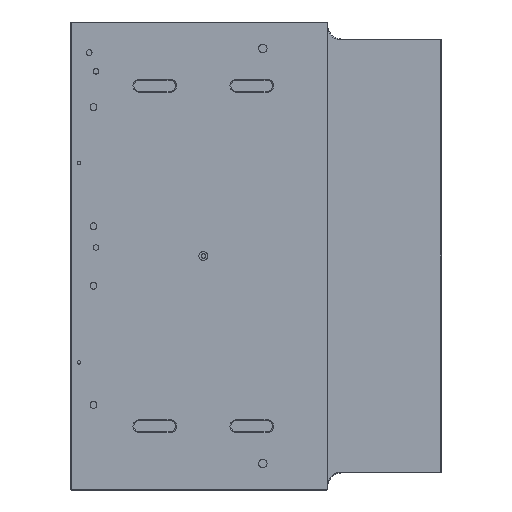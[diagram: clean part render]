
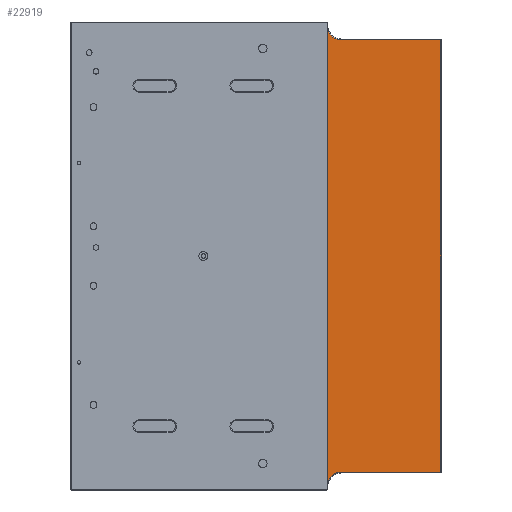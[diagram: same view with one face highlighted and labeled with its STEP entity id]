
A CAD part, front view. The second image highlights one B-rep face of the part: STEP entity #22919.
In plain terms, the highlighted planar face has unit normal (0, -1, 0).
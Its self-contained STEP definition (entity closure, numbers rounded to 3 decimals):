
#3095=CARTESIAN_POINT('',(81.3,0.5,
-127.));
#3096=CARTESIAN_POINT('',(81.172,0.5,
-127.));
#3097=CARTESIAN_POINT('',(80.916,0.5,
-127.006));
#3098=CARTESIAN_POINT('',(80.531,0.5,
-127.031));
#3099=CARTESIAN_POINT('',(80.147,0.5,
-127.073));
#3100=CARTESIAN_POINT('',(79.764,0.5,
-127.132));
#3101=CARTESIAN_POINT('',(79.384,0.5,
-127.208));
#3102=CARTESIAN_POINT('',(79.008,0.5,
-127.301));
#3103=CARTESIAN_POINT('',(78.636,0.5,
-127.41));
#3104=CARTESIAN_POINT('',(78.269,0.5,
-127.535));
#3105=CARTESIAN_POINT('',(77.908,0.5,
-127.677));
#3106=CARTESIAN_POINT('',(77.554,0.5,
-127.834));
#3107=CARTESIAN_POINT('',(77.207,0.5,
-128.007));
#3108=CARTESIAN_POINT('',(76.868,0.5,
-128.194));
#3109=CARTESIAN_POINT('',(76.538,0.5,
-128.397));
#3110=CARTESIAN_POINT('',(76.216,0.5,
-128.614));
#3111=CARTESIAN_POINT('',(75.905,0.5,
-128.844));
#3112=CARTESIAN_POINT('',(75.604,0.5,-129.088));
#3113=CARTESIAN_POINT('',(75.314,0.5,-129.346));
#3114=CARTESIAN_POINT('',(75.036,0.5,-129.616));
#3115=CARTESIAN_POINT('',(74.77,0.5,-129.897));
#3116=CARTESIAN_POINT('',(74.516,0.5,-130.19));
#3117=CARTESIAN_POINT('',(74.276,0.5,-130.494));
#3118=CARTESIAN_POINT('',(74.049,0.5,-130.808));
#3119=CARTESIAN_POINT('',(73.836,0.5,-131.132));
#3120=CARTESIAN_POINT('',(73.638,0.5,-131.466));
#3121=CARTESIAN_POINT('',(73.455,0.5,-131.807));
#3122=CARTESIAN_POINT('',(73.287,0.5,-132.156));
#3123=CARTESIAN_POINT('',(73.134,0.5,-132.513));
#3124=CARTESIAN_POINT('',(73.043,0.5,-132.754));
#3125=CARTESIAN_POINT('',(73.,0.5,-132.876));
#3130=DIRECTION('',(0.,0.,1.));
#3131=VECTOR('',#3130,265.752);
#3132=CARTESIAN_POINT('',(73.,0.5,-132.876));
#3133=LINE('1306',#3132,#3131);
#3137=CARTESIAN_POINT('',(81.3,0.5,135.8));
#3138=DIRECTION('',(0.,-1.,0.));
#3139=DIRECTION('',(-0.943,0.,-0.332));
#3140=AXIS2_PLACEMENT_3D('',#3137,#3138,#3139);
#3145=DIRECTION('',(1.,0.,0.));
#3146=VECTOR('',#3145,58.2);
#3147=CARTESIAN_POINT('',(81.3,0.5,127.));
#3148=LINE('1300',#3147,#3146);
#3152=DIRECTION('',(0.,0.,-1.));
#3153=VECTOR('',#3152,254.);
#3154=CARTESIAN_POINT('',(139.5,0.5,127.));
#3155=LINE('1303',#3154,#3153);
#3159=DIRECTION('',(-1.,0.,0.));
#3160=VECTOR('',#3159,58.2);
#3161=CARTESIAN_POINT('',(139.5,0.5,-127.));
#3162=LINE('1296',#3161,#3160);
#17465=VERTEX_POINT('',#3095);
#17466=VERTEX_POINT('',#3125);
#17469=CARTESIAN_POINT('',(139.5,0.5,-127.));
#17470=VERTEX_POINT('',#17469);
#17471=CARTESIAN_POINT('',(73.,0.5,132.876));
#17472=CARTESIAN_POINT('',(81.3,0.5,127.));
#17473=VERTEX_POINT('',#17471);
#17474=VERTEX_POINT('',#17472);
#17477=CARTESIAN_POINT('',(139.5,0.5,127.));
#17478=VERTEX_POINT('',#17477);
#22902=CARTESIAN_POINT('',(73.,0.5,-137.5));
#22903=DIRECTION('',(0.,-1.,0.));
#22904=DIRECTION('',(1.,0.,0.));
#22905=AXIS2_PLACEMENT_3D('',#22902,#22903,#22904);
#22906=PLANE('195',#22905);
#22907=ORIENTED_EDGE('1292',*,*,#22886,.T.);
#22908=ORIENTED_EDGE('1306',*,*,#20028,.T.);
#22910=ORIENTED_EDGE('1298',*,*,#22909,.T.);
#22912=ORIENTED_EDGE('1300',*,*,#22911,.T.);
#22914=ORIENTED_EDGE('1303',*,*,#22913,.T.);
#22916=ORIENTED_EDGE('1296',*,*,#22915,.T.);
#22917=EDGE_LOOP('195',(#22907,#22908,#22910,#22912,#22914,#22916));
#22918=FACE_OUTER_BOUND('195',#22917,.F.);
#3126=B_SPLINE_CURVE_WITH_KNOTS('1292',3,(#3095,#3096,#3097,#3098,#3099,#3100,
#3101,#3102,#3103,#3104,#3105,#3106,#3107,#3108,#3109,#3110,#3111,#3112,#3113,
#3114,#3115,#3116,#3117,#3118,#3119,#3120,#3121,#3122,#3123,#3124,#3125),
.UNSPECIFIED.,.F.,.F.,(4,1,1,1,1,1,1,1,1,1,1,1,1,1,1,1,1,1,1,1,1,1,1,1,1,1,1,1,
4),(0.,0.036,0.071,0.107,
0.143,0.179,0.214,0.25,0.286,
0.321,0.357,0.393,0.429,
0.464,0.5,0.536,0.571,0.607,
0.643,0.679,0.714,0.75,0.786,
0.821,0.857,0.893,0.929,
0.964,1.),.UNSPECIFIED.);
#3141=CIRCLE('1298',#3140,8.8);
#20028=EDGE_CURVE('1306',#17466,#17473,#3133,.T.);
#22886=EDGE_CURVE('1292',#17465,#17466,#3126,.T.);
#22909=EDGE_CURVE('1298',#17473,#17474,#3141,.T.);
#22911=EDGE_CURVE('1300',#17474,#17478,#3148,.T.);
#22913=EDGE_CURVE('1303',#17478,#17470,#3155,.T.);
#22915=EDGE_CURVE('1296',#17470,#17465,#3162,.T.);
#22919=ADVANCED_FACE('195',(#22918),#22906,.T.);
